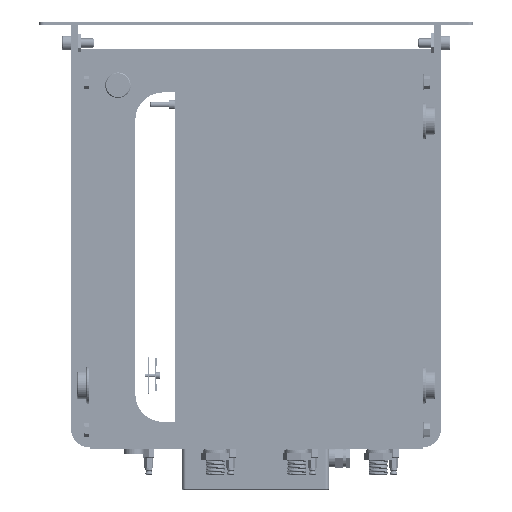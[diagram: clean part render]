
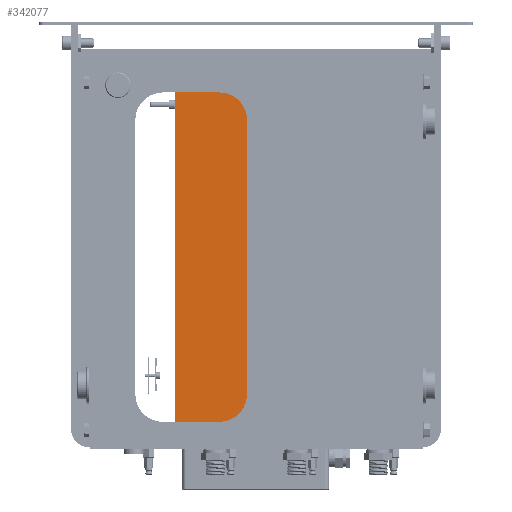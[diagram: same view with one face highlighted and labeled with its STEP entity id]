
A CAD part, left-side view. The second image highlights one B-rep face of the part: STEP entity #342077.
In plain terms, the highlighted planar face has unit normal (-1, 0, 0).
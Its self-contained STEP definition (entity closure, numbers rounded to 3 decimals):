
#545 = AXIS2_PLACEMENT_3D ( 'NONE', #381174, #187774, #2604 ) ;
#2604 = DIRECTION ( 'NONE',  ( 0., 0., 1. ) ) ;
#3392 = VERTEX_POINT ( 'NONE', #89702 ) ;
#3626 = DIRECTION ( 'NONE',  ( 0., 0., 1. ) ) ;
#7795 = CARTESIAN_POINT ( 'NONE',  ( -474.654, -89.786, -153.147 ) ) ;
#12168 = CARTESIAN_POINT ( 'NONE',  ( -474.654, -7.786, -140.787 ) ) ;
#20514 = CARTESIAN_POINT ( 'NONE',  ( -474.654, -0.786, 246.853 ) ) ;
#26451 = CARTESIAN_POINT ( 'NONE',  ( -474.654, -7.416, 237.853 ) ) ;
#29311 = ORIENTED_EDGE ( 'NONE', *, *, #230870, .F. ) ;
#43677 = DIRECTION ( 'NONE',  ( 0., 0., 1. ) ) ;
#54877 = VERTEX_POINT ( 'NONE', #12168 ) ;
#75849 = VERTEX_POINT ( 'NONE', #465836 ) ;
#76889 = EDGE_CURVE ( 'NONE', #790393, #227425, #131900, .T. ) ;
#80821 = VECTOR ( 'NONE', #3626, 1000. ) ;
#89702 = CARTESIAN_POINT ( 'NONE',  ( -474.654, -89.786, 246.853 ) ) ;
#98009 = DIRECTION ( 'NONE',  ( -1., 0., 0. ) ) ;
#102868 = DIRECTION ( 'NONE',  ( -1., 0., 0. ) ) ;
#103572 = CARTESIAN_POINT ( 'NONE',  ( -474.654, -0.786, -153.147 ) ) ;
#109253 = DIRECTION ( 'NONE',  ( -1., 0., 0. ) ) ;
#114656 = VERTEX_POINT ( 'NONE', #726909 ) ;
#116032 = VERTEX_POINT ( 'NONE', #613354 ) ;
#120670 = ORIENTED_EDGE ( 'NONE', *, *, #797815, .T. ) ;
#123709 = CARTESIAN_POINT ( 'NONE',  ( -474.654, -82.967, 237.853 ) ) ;
#131299 = EDGE_LOOP ( 'NONE', ( #282793, #120670, #546510, #694155 ) ) ;
#131900 = LINE ( 'NONE', #775287, #819769 ) ;
#138343 = CARTESIAN_POINT ( 'NONE',  ( -474.654, -83.157, -140.787 ) ) ;
#142324 = LINE ( 'NONE', #7795, #80821 ) ;
#153516 = CARTESIAN_POINT ( 'NONE',  ( -474.654, -82.967, 241.213 ) ) ;
#168369 = ORIENTED_EDGE ( 'NONE', *, *, #273560, .F. ) ;
#170102 = DIRECTION ( 'NONE',  ( 0., 0., 1. ) ) ;
#180655 = CARTESIAN_POINT ( 'NONE',  ( -474.654, -89.786, -153.147 ) ) ;
#181813 = VECTOR ( 'NONE', #684374, 1000. ) ;
#186209 = VERTEX_POINT ( 'NONE', #180655 ) ;
#187774 = DIRECTION ( 'NONE',  ( -1., 0., 0. ) ) ;
#199116 = DIRECTION ( 'NONE',  ( 0., 0., -1. ) ) ;
#211624 = DIRECTION ( 'NONE',  ( 0., 1., 0. ) ) ;
#227194 = ORIENTED_EDGE ( 'NONE', *, *, #351720, .F. ) ;
#227425 = VERTEX_POINT ( 'NONE', #103572 ) ;
#230870 = EDGE_CURVE ( 'NONE', #54877, #114656, #394829, .T. ) ;
#251971 = DIRECTION ( 'NONE',  ( 0., 0., 1. ) ) ;
#262326 = DIRECTION ( 'NONE',  ( 0., 0., 1. ) ) ;
#268150 = EDGE_CURVE ( 'NONE', #114656, #54877, #372685, .T. ) ;
#270531 = DIRECTION ( 'NONE',  ( 0., 0., 1. ) ) ;
#273560 = EDGE_CURVE ( 'NONE', #367745, #577408, #670380, .T. ) ;
#280762 = AXIS2_PLACEMENT_3D ( 'NONE', #547834, #98009, #354499 ) ;
#282793 = ORIENTED_EDGE ( 'NONE', *, *, #421988, .T. ) ;
#287504 = DIRECTION ( 'NONE',  ( 0., 0., 1. ) ) ;
#288152 = EDGE_CURVE ( 'NONE', #227425, #186209, #301628, .T. ) ;
#294605 = ORIENTED_EDGE ( 'NONE', *, *, #584857, .F. ) ;
#301628 = LINE ( 'NONE', #747535, #181813 ) ;
#304261 = FACE_BOUND ( 'NONE', #707134, .T. ) ;
#342077 = ADVANCED_FACE ( 'NONE', ( #800836, #304261, #691224, #363239, #560761 ), #619721, .T. ) ;
#345665 = AXIS2_PLACEMENT_3D ( 'NONE', #26451, #598402, #270531 ) ;
#351720 = EDGE_CURVE ( 'NONE', #577408, #367745, #560532, .T. ) ;
#354499 = DIRECTION ( 'NONE',  ( 0., 0., 1. ) ) ;
#361376 = ORIENTED_EDGE ( 'NONE', *, *, #380822, .F. ) ;
#363239 = FACE_BOUND ( 'NONE', #657583, .T. ) ;
#365705 = CARTESIAN_POINT ( 'NONE',  ( -474.654, -82.967, 237.853 ) ) ;
#367745 = VERTEX_POINT ( 'NONE', #798914 ) ;
#372685 = CIRCLE ( 'NONE', #480081, 3.36 ) ;
#373358 = CIRCLE ( 'NONE', #547927, 3.36 ) ;
#380822 = EDGE_CURVE ( 'NONE', #75849, #405451, #708571, .T. ) ;
#381174 = CARTESIAN_POINT ( 'NONE',  ( -474.654, -83.157, -144.147 ) ) ;
#389124 = VECTOR ( 'NONE', #211624, 1000. ) ;
#394829 = CIRCLE ( 'NONE', #555622, 3.36 ) ;
#403203 = EDGE_CURVE ( 'NONE', #116032, #448602, #373358, .T. ) ;
#405451 = VERTEX_POINT ( 'NONE', #138343 ) ;
#421988 = EDGE_CURVE ( 'NONE', #186209, #3392, #142324, .T. ) ;
#440672 = EDGE_LOOP ( 'NONE', ( #722377, #461030 ) ) ;
#447387 = DIRECTION ( 'NONE',  ( -1., 0., 0. ) ) ;
#448602 = VERTEX_POINT ( 'NONE', #153516 ) ;
#459815 = LINE ( 'NONE', #787785, #389124 ) ;
#461030 = ORIENTED_EDGE ( 'NONE', *, *, #403203, .F. ) ;
#465836 = CARTESIAN_POINT ( 'NONE',  ( -474.654, -83.157, -147.507 ) ) ;
#476771 = DIRECTION ( 'NONE',  ( -1., 0., 0. ) ) ;
#480081 = AXIS2_PLACEMENT_3D ( 'NONE', #745862, #476771, #287504 ) ;
#481094 = CARTESIAN_POINT ( 'NONE',  ( -474.654, -489.797, 246.853 ) ) ;
#502023 = CARTESIAN_POINT ( 'NONE',  ( -474.654, -83.157, -144.147 ) ) ;
#546510 = ORIENTED_EDGE ( 'NONE', *, *, #76889, .T. ) ;
#547834 = CARTESIAN_POINT ( 'NONE',  ( -474.654, -7.416, 237.853 ) ) ;
#547927 = AXIS2_PLACEMENT_3D ( 'NONE', #365705, #109253, #251971 ) ;
#555622 = AXIS2_PLACEMENT_3D ( 'NONE', #801078, #102868, #809393 ) ;
#560532 = CIRCLE ( 'NONE', #345665, 3.36 ) ;
#560761 = FACE_OUTER_BOUND ( 'NONE', #131299, .T. ) ;
#571907 = AXIS2_PLACEMENT_3D ( 'NONE', #123709, #447387, #262326 ) ;
#577408 = VERTEX_POINT ( 'NONE', #619836 ) ;
#584857 = EDGE_CURVE ( 'NONE', #405451, #75849, #658517, .T. ) ;
#598402 = DIRECTION ( 'NONE',  ( -1., 0., 0. ) ) ;
#613354 = CARTESIAN_POINT ( 'NONE',  ( -474.654, -82.967, 234.493 ) ) ;
#619721 = PLANE ( 'NONE',  #663538 ) ;
#619836 = CARTESIAN_POINT ( 'NONE',  ( -474.654, -7.416, 241.213 ) ) ;
#620243 = EDGE_LOOP ( 'NONE', ( #294605, #361376 ) ) ;
#646472 = EDGE_CURVE ( 'NONE', #448602, #116032, #800127, .T. ) ;
#657583 = EDGE_LOOP ( 'NONE', ( #29311, #815556 ) ) ;
#658517 = CIRCLE ( 'NONE', #545, 3.36 ) ;
#663538 = AXIS2_PLACEMENT_3D ( 'NONE', #481094, #737767, #43677 ) ;
#670380 = CIRCLE ( 'NONE', #280762, 3.36 ) ;
#684374 = DIRECTION ( 'NONE',  ( 0., -1., 0. ) ) ;
#691224 = FACE_BOUND ( 'NONE', #620243, .T. ) ;
#691470 = DIRECTION ( 'NONE',  ( -1., 0., 0. ) ) ;
#694155 = ORIENTED_EDGE ( 'NONE', *, *, #288152, .T. ) ;
#707134 = EDGE_LOOP ( 'NONE', ( #227194, #168369 ) ) ;
#708571 = CIRCLE ( 'NONE', #788968, 3.36 ) ;
#722377 = ORIENTED_EDGE ( 'NONE', *, *, #646472, .F. ) ;
#726909 = CARTESIAN_POINT ( 'NONE',  ( -474.654, -7.786, -147.507 ) ) ;
#737767 = DIRECTION ( 'NONE',  ( -1., 0., 0. ) ) ;
#745862 = CARTESIAN_POINT ( 'NONE',  ( -474.654, -7.786, -144.147 ) ) ;
#747535 = CARTESIAN_POINT ( 'NONE',  ( -474.654, -0.786, -153.147 ) ) ;
#775287 = CARTESIAN_POINT ( 'NONE',  ( -474.654, -0.786, -153.147 ) ) ;
#787785 = CARTESIAN_POINT ( 'NONE',  ( -474.654, -0.786, 246.853 ) ) ;
#788968 = AXIS2_PLACEMENT_3D ( 'NONE', #502023, #691470, #170102 ) ;
#790393 = VERTEX_POINT ( 'NONE', #20514 ) ;
#797815 = EDGE_CURVE ( 'NONE', #3392, #790393, #459815, .T. ) ;
#798914 = CARTESIAN_POINT ( 'NONE',  ( -474.654, -7.416, 234.493 ) ) ;
#800127 = CIRCLE ( 'NONE', #571907, 3.36 ) ;
#800836 = FACE_BOUND ( 'NONE', #440672, .T. ) ;
#801078 = CARTESIAN_POINT ( 'NONE',  ( -474.654, -7.786, -144.147 ) ) ;
#809393 = DIRECTION ( 'NONE',  ( 0., 0., 1. ) ) ;
#815556 = ORIENTED_EDGE ( 'NONE', *, *, #268150, .F. ) ;
#819769 = VECTOR ( 'NONE', #199116, 1000. ) ;
